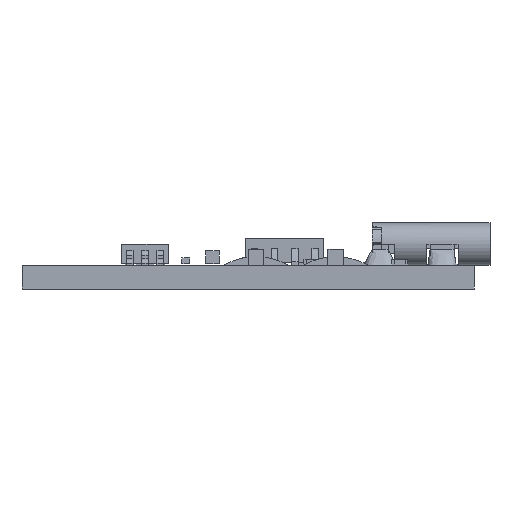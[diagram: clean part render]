
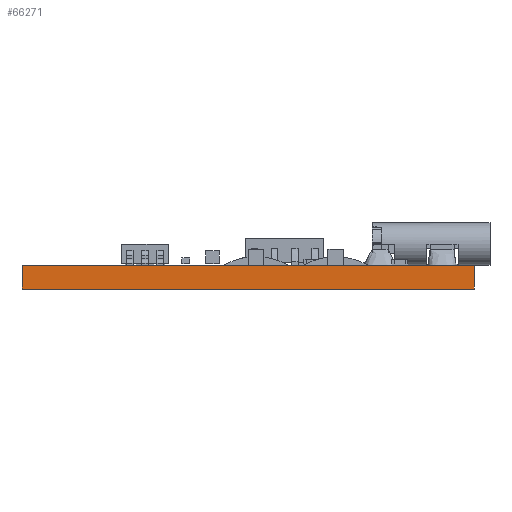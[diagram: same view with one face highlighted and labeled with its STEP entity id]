
A CAD part, front view. The second image highlights one B-rep face of the part: STEP entity #66271.
In plain terms, the highlighted planar face has unit normal (0, -1, 0).
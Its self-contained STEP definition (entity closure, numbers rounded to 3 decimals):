
#8051=FACE_OUTER_BOUND('',#11912,.T.);
#11912=EDGE_LOOP('',(#49824,#49825,#49826,#49827));
#16348=LINE('',#99409,#22326);
#16550=LINE('',#99914,#22528);
#16551=LINE('',#99917,#22529);
#16552=LINE('',#99918,#22530);
#22326=VECTOR('',#73926,10.);
#22528=VECTOR('',#74422,10.);
#22529=VECTOR('',#74425,10.);
#22530=VECTOR('',#74426,10.);
#28635=VERTEX_POINT('',#99406);
#28636=VERTEX_POINT('',#99408);
#28792=VERTEX_POINT('',#99912);
#28793=VERTEX_POINT('',#99916);
#36330=EDGE_CURVE('',#28635,#28636,#16348,.T.);
#36566=EDGE_CURVE('',#28792,#28636,#16550,.T.);
#36567=EDGE_CURVE('',#28792,#28793,#16551,.T.);
#36568=EDGE_CURVE('',#28793,#28635,#16552,.T.);
#49824=ORIENTED_EDGE('',*,*,#36567,.F.);
#49825=ORIENTED_EDGE('',*,*,#36566,.T.);
#49826=ORIENTED_EDGE('',*,*,#36330,.F.);
#49827=ORIENTED_EDGE('',*,*,#36568,.F.);
#63857=PLANE('',#69760);
#66271=ADVANCED_FACE('',(#8051),#63857,.T.);
#69760=AXIS2_PLACEMENT_3D('',#99915,#74423,#74424);
#73926=DIRECTION('',(1.,0.,0.));
#74422=DIRECTION('',(0.,0.,1.));
#74423=DIRECTION('center_axis',(0.,-1.,0.));
#74424=DIRECTION('ref_axis',(1.,0.,0.));
#74425=DIRECTION('',(-1.,0.,0.));
#74426=DIRECTION('',(0.,0.,1.));
#99406=CARTESIAN_POINT('',(-14.15,-8.7,1.5));
#99408=CARTESIAN_POINT('',(14.15,-8.7,1.5));
#99409=CARTESIAN_POINT('',(14.15,-8.7,1.5));
#99912=CARTESIAN_POINT('',(14.15,-8.7,0.));
#99914=CARTESIAN_POINT('',(14.15,-8.7,0.));
#99915=CARTESIAN_POINT('Origin',(-14.15,-8.7,0.));
#99916=CARTESIAN_POINT('',(-14.15,-8.7,0.));
#99917=CARTESIAN_POINT('',(14.15,-8.7,0.));
#99918=CARTESIAN_POINT('',(-14.15,-8.7,0.));
